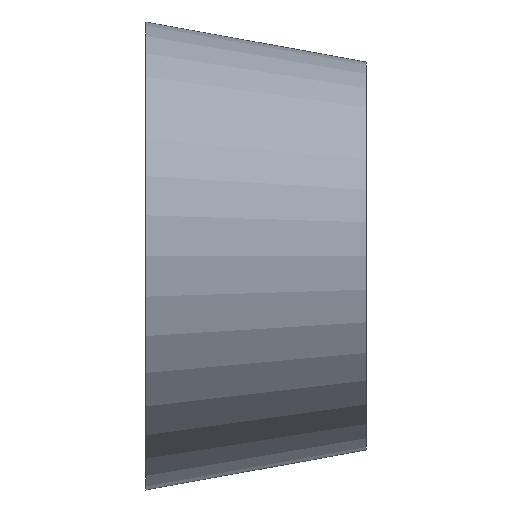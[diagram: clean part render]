
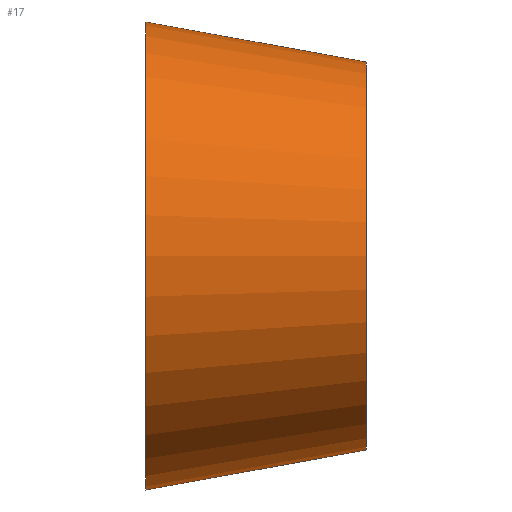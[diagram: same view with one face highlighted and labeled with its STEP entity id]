
A CAD part, front view. The second image highlights one B-rep face of the part: STEP entity #17.
In plain terms, the highlighted free-form (B-spline) face has degree [14, 1] with [15, 2] control points.
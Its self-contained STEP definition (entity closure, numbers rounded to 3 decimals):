
#17 = ADVANCED_FACE('',(#18),#31,.T.);
#18 = FACE_BOUND('',#19,.T.);
#19 = EDGE_LOOP('',(#20,#80,#102,#129));
#20 = ORIENTED_EDGE('',*,*,#21,.T.);
#21 = EDGE_CURVE('',#22,#22,#24,.T.);
#22 = VERTEX_POINT('',#23);
#23 = CARTESIAN_POINT('',(0.,17.5,0.));
#24 = SURFACE_CURVE('',#25,(#30,#68),.PCURVE_S1.);
#25 = CIRCLE('',#26,17.5);
#26 = AXIS2_PLACEMENT_3D('',#27,#28,#29);
#27 = CARTESIAN_POINT('',(0.,0.,0.));
#28 = DIRECTION('',(1.,0.,0.));
#29 = DIRECTION('',(0.,1.,0.));
#30 = PCURVE('',#31,#62);
#31 = B_SPLINE_SURFACE_WITH_KNOTS('',14,1,(
    (#32,#33)
    ,(#34,#35)
    ,(#36,#37)
    ,(#38,#39)
    ,(#40,#41)
    ,(#42,#43)
    ,(#44,#45)
    ,(#46,#47)
    ,(#48,#49)
    ,(#50,#51)
    ,(#52,#53)
    ,(#54,#55)
    ,(#56,#57)
    ,(#58,#59)
    ,(#60,#61
    )),.UNSPECIFIED.,.T.,.F.,.F.,(15,15),(2,2),(0.,6.283),(0.,1.
    ),.PIECEWISE_BEZIER_KNOTS.);
#32 = CARTESIAN_POINT('',(0.,17.5,0.));
#33 = CARTESIAN_POINT('',(16.5,11.5,0.));
#34 = CARTESIAN_POINT('',(0.,17.5,7.854));
#35 = CARTESIAN_POINT('',(16.5,11.5,6.508));
#36 = CARTESIAN_POINT('',(0.,13.704,15.708));
#37 = CARTESIAN_POINT('',(16.5,8.355,13.015
    ));
#38 = CARTESIAN_POINT('',(0.,6.112,21.574));
#39 = CARTESIAN_POINT('',(16.5,2.064,17.876)
  );
#40 = CARTESIAN_POINT('',(0.,-4.141,23.466));
#41 = CARTESIAN_POINT('',(16.5,-6.431,
    19.443));
#42 = CARTESIAN_POINT('',(0.,-14.784,20.107));
#43 = CARTESIAN_POINT('',(16.5,-15.249,16.66
    ));
#44 = CARTESIAN_POINT('',(0.,-22.908,11.653));
#45 = CARTESIAN_POINT('',(16.5,-21.981,9.655
    ));
#46 = CARTESIAN_POINT('',(0.,-25.967,0.));
#47 = CARTESIAN_POINT('',(16.5,-24.516,
    0.));
#48 = CARTESIAN_POINT('',(0.,-22.908,-11.653));
#49 = CARTESIAN_POINT('',(16.5,-21.981,-9.655)
  );
#50 = CARTESIAN_POINT('',(0.,-14.784,-20.107));
#51 = CARTESIAN_POINT('',(16.5,-15.249,
    -16.66));
#52 = CARTESIAN_POINT('',(0.,-4.141,-23.466));
#53 = CARTESIAN_POINT('',(16.5,-6.431,-19.443
    ));
#54 = CARTESIAN_POINT('',(0.,6.112,-21.574));
#55 = CARTESIAN_POINT('',(16.5,2.064,-17.876
    ));
#56 = CARTESIAN_POINT('',(0.,13.704,-15.708));
#57 = CARTESIAN_POINT('',(16.5,8.355,-13.015)
  );
#58 = CARTESIAN_POINT('',(0.,17.5,-7.854));
#59 = CARTESIAN_POINT('',(16.5,11.5,
    -6.508));
#60 = CARTESIAN_POINT('',(0.,17.5,0.));
#61 = CARTESIAN_POINT('',(16.5,11.5,0.));
#62 = DEFINITIONAL_REPRESENTATION('',(#63),#67);
#63 = LINE('',#64,#65);
#64 = CARTESIAN_POINT('',(0.,0.));
#65 = VECTOR('',#66,1.);
#66 = DIRECTION('',(1.,0.));
#67 = ( GEOMETRIC_REPRESENTATION_CONTEXT(2) 
PARAMETRIC_REPRESENTATION_CONTEXT() REPRESENTATION_CONTEXT('2D SPACE',''
  ) );
#68 = PCURVE('',#69,#74);
#69 = PLANE('',#70);
#70 = AXIS2_PLACEMENT_3D('',#71,#72,#73);
#71 = CARTESIAN_POINT('',(0.,0.,0.));
#72 = DIRECTION('',(1.,0.,0.));
#73 = DIRECTION('',(0.,1.,0.));
#74 = DEFINITIONAL_REPRESENTATION('',(#75),#79);
#75 = CIRCLE('',#76,17.5);
#76 = AXIS2_PLACEMENT_2D('',#77,#78);
#77 = CARTESIAN_POINT('',(0.,0.));
#78 = DIRECTION('',(1.,0.));
#79 = ( GEOMETRIC_REPRESENTATION_CONTEXT(2) 
PARAMETRIC_REPRESENTATION_CONTEXT() REPRESENTATION_CONTEXT('2D SPACE',''
  ) );
#80 = ORIENTED_EDGE('',*,*,#81,.T.);
#81 = EDGE_CURVE('',#22,#82,#84,.T.);
#82 = VERTEX_POINT('',#83);
#83 = CARTESIAN_POINT('',(16.5,11.5,0.));
#84 = SEAM_CURVE('',#85,(#88,#95),.PCURVE_S1.);
#85 = B_SPLINE_CURVE_WITH_KNOTS('',1,(#86,#87),.UNSPECIFIED.,.F.,.F.,(2,
    2),(0.,1.),.PIECEWISE_BEZIER_KNOTS.);
#86 = CARTESIAN_POINT('',(0.,17.5,0.));
#87 = CARTESIAN_POINT('',(16.5,11.5,0.));
#88 = PCURVE('',#31,#89);
#89 = DEFINITIONAL_REPRESENTATION('',(#90),#94);
#90 = LINE('',#91,#92);
#91 = CARTESIAN_POINT('',(6.283,0.));
#92 = VECTOR('',#93,1.);
#93 = DIRECTION('',(0.,1.));
#94 = ( GEOMETRIC_REPRESENTATION_CONTEXT(2) 
PARAMETRIC_REPRESENTATION_CONTEXT() REPRESENTATION_CONTEXT('2D SPACE',''
  ) );
#95 = PCURVE('',#31,#96);
#96 = DEFINITIONAL_REPRESENTATION('',(#97),#101);
#97 = LINE('',#98,#99);
#98 = CARTESIAN_POINT('',(0.,0.));
#99 = VECTOR('',#100,1.);
#100 = DIRECTION('',(0.,1.));
#101 = ( GEOMETRIC_REPRESENTATION_CONTEXT(2) 
PARAMETRIC_REPRESENTATION_CONTEXT() REPRESENTATION_CONTEXT('2D SPACE',''
  ) );
#102 = ORIENTED_EDGE('',*,*,#103,.F.);
#103 = EDGE_CURVE('',#82,#82,#104,.T.);
#104 = SURFACE_CURVE('',#105,(#110,#117),.PCURVE_S1.);
#105 = CIRCLE('',#106,14.5);
#106 = AXIS2_PLACEMENT_3D('',#107,#108,#109);
#107 = CARTESIAN_POINT('',(16.5,-3.,0.));
#108 = DIRECTION('',(1.,0.,0.));
#109 = DIRECTION('',(0.,1.,0.));
#110 = PCURVE('',#31,#111);
#111 = DEFINITIONAL_REPRESENTATION('',(#112),#116);
#112 = LINE('',#113,#114);
#113 = CARTESIAN_POINT('',(0.,1.));
#114 = VECTOR('',#115,1.);
#115 = DIRECTION('',(1.,0.));
#116 = ( GEOMETRIC_REPRESENTATION_CONTEXT(2) 
PARAMETRIC_REPRESENTATION_CONTEXT() REPRESENTATION_CONTEXT('2D SPACE',''
  ) );
#117 = PCURVE('',#118,#123);
#118 = PLANE('',#119);
#119 = AXIS2_PLACEMENT_3D('',#120,#121,#122);
#120 = CARTESIAN_POINT('',(16.5,-3.,0.));
#121 = DIRECTION('',(1.,0.,0.));
#122 = DIRECTION('',(0.,1.,0.));
#123 = DEFINITIONAL_REPRESENTATION('',(#124),#128);
#124 = CIRCLE('',#125,14.5);
#125 = AXIS2_PLACEMENT_2D('',#126,#127);
#126 = CARTESIAN_POINT('',(0.,0.));
#127 = DIRECTION('',(1.,0.));
#128 = ( GEOMETRIC_REPRESENTATION_CONTEXT(2) 
PARAMETRIC_REPRESENTATION_CONTEXT() REPRESENTATION_CONTEXT('2D SPACE',''
  ) );
#129 = ORIENTED_EDGE('',*,*,#81,.F.);
